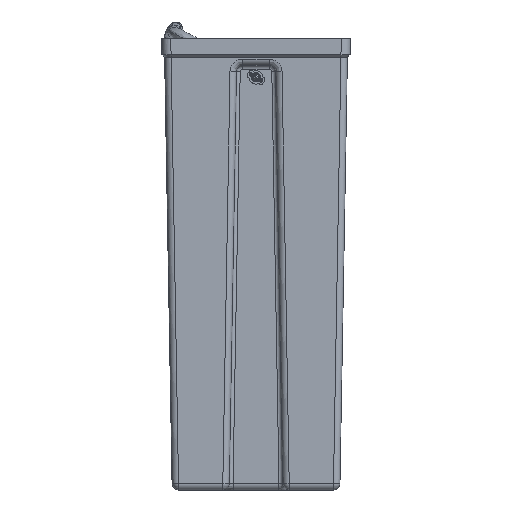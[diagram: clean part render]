
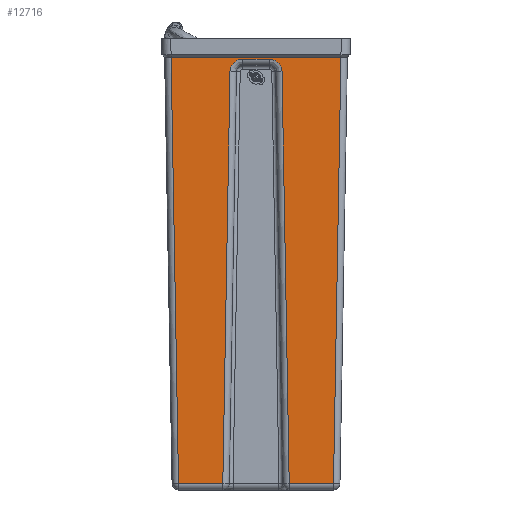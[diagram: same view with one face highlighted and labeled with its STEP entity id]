
A CAD part, left-side view. The second image highlights one B-rep face of the part: STEP entity #12716.
In plain terms, the highlighted planar face has unit normal (-1, 0, -0.018).
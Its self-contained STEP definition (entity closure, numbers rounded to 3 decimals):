
#1388=ELLIPSE('',#13679,12.002,12.);
#1389=ELLIPSE('',#13680,12.002,12.);
#2116=ORIENTED_EDGE('',*,*,#6122,.T.);
#2117=ORIENTED_EDGE('',*,*,#6123,.T.);
#2118=ORIENTED_EDGE('',*,*,#6124,.T.);
#2119=ORIENTED_EDGE('',*,*,#6125,.T.);
#2120=ORIENTED_EDGE('',*,*,#6126,.T.);
#2121=ORIENTED_EDGE('',*,*,#6127,.F.);
#2122=ORIENTED_EDGE('',*,*,#6128,.T.);
#2123=ORIENTED_EDGE('',*,*,#6129,.F.);
#2124=ORIENTED_EDGE('',*,*,#6130,.T.);
#2125=ORIENTED_EDGE('',*,*,#6131,.T.);
#6122=EDGE_CURVE('',#8112,#8038,#9189,.F.);
#6123=EDGE_CURVE('',#8038,#8035,#9190,.T.);
#6124=EDGE_CURVE('',#8035,#8113,#9191,.T.);
#6125=EDGE_CURVE('',#8113,#8114,#9192,.F.);
#6126=EDGE_CURVE('',#8114,#8115,#9193,.T.);
#6127=EDGE_CURVE('',#8116,#8115,#1388,.T.);
#6128=EDGE_CURVE('',#8116,#8117,#9194,.F.);
#6129=EDGE_CURVE('',#8118,#8117,#1389,.T.);
#6130=EDGE_CURVE('',#8118,#8119,#9195,.F.);
#6131=EDGE_CURVE('',#8119,#8112,#9196,.F.);
#8035=VERTEX_POINT('',#19481);
#8038=VERTEX_POINT('',#19542);
#8112=VERTEX_POINT('',#19836);
#8113=VERTEX_POINT('',#19839);
#8114=VERTEX_POINT('',#19841);
#8115=VERTEX_POINT('',#19843);
#8116=VERTEX_POINT('',#19845);
#8117=VERTEX_POINT('',#19847);
#8118=VERTEX_POINT('',#19849);
#8119=VERTEX_POINT('',#19851);
#9189=LINE('',#19835,#9993);
#9190=LINE('',#19837,#9994);
#9191=LINE('',#19838,#9995);
#9192=LINE('',#19840,#9996);
#9193=LINE('',#19842,#9997);
#9194=LINE('',#19846,#9998);
#9195=LINE('',#19850,#9999);
#9196=LINE('',#19852,#10000);
#9993=VECTOR('',#15413,1000.);
#9994=VECTOR('',#15414,1000.);
#9995=VECTOR('',#15415,1000.);
#9996=VECTOR('',#15416,1000.);
#9997=VECTOR('',#15417,1000.);
#9998=VECTOR('',#15420,1000.);
#9999=VECTOR('',#15423,1000.);
#10000=VECTOR('',#15424,1000.);
#10716=EDGE_LOOP('',(#2116,#2117,#2118,#2119,#2120,#2121,#2122,#2123,#2124,
#2125));
#11625=FACE_BOUND('',#10716,.T.);
#12520=PLANE('',#13678);
#12716=ADVANCED_FACE('',(#11625),#12520,.T.);
#13678=AXIS2_PLACEMENT_3D('',#19834,#15411,#15412);
#13679=AXIS2_PLACEMENT_3D('',#19844,#15418,#15419);
#13680=AXIS2_PLACEMENT_3D('',#19848,#15421,#15422);
#15411=DIRECTION('',(-1.,0.,-0.017));
#15412=DIRECTION('',(-0.017,0.,1.));
#15413=DIRECTION('',(0.017,0.017,-1.));
#15414=DIRECTION('',(0.,1.,0.));
#15415=DIRECTION('',(0.017,-0.017,-1.));
#15416=DIRECTION('',(0.,1.,0.));
#15417=DIRECTION('',(-0.017,-0.017,1.));
#15418=DIRECTION('',(-1.,0.,-0.017));
#15419=DIRECTION('',(-0.017,0.,1.));
#15420=DIRECTION('',(0.,1.,0.));
#15421=DIRECTION('',(-1.,0.,-0.017));
#15422=DIRECTION('',(0.017,0.,-1.));
#15423=DIRECTION('',(-0.017,0.017,1.));
#15424=DIRECTION('',(0.,1.,0.));
#19481=CARTESIAN_POINT('',(-189.526,79.027,402.5));
#19542=CARTESIAN_POINT('',(-189.526,-79.027,402.5));
#19834=CARTESIAN_POINT('',(-182.5,0.,0.));
#19835=CARTESIAN_POINT('',(-182.478,-71.979,-1.256));
#19836=CARTESIAN_POINT('',(-182.603,-72.104,5.895));
#19837=CARTESIAN_POINT('',(-189.526,79.07,402.5));
#19838=CARTESIAN_POINT('',(-182.478,71.979,-1.256));
#19839=CARTESIAN_POINT('',(-182.603,72.104,5.895));
#19840=CARTESIAN_POINT('',(-182.603,0.,5.895));
#19841=CARTESIAN_POINT('',(-182.603,30.896,5.895));
#19842=CARTESIAN_POINT('',(-189.397,24.103,395.105));
#19843=CARTESIAN_POINT('',(-189.292,24.207,389.105));
#19844=CARTESIAN_POINT('',(-189.288,12.209,388.895));
#19845=CARTESIAN_POINT('',(-189.498,12.209,400.895));
#19846=CARTESIAN_POINT('',(-189.498,0.,400.895));
#19847=CARTESIAN_POINT('',(-189.498,-12.209,400.895));
#19848=CARTESIAN_POINT('',(-189.288,-12.209,388.895));
#19849=CARTESIAN_POINT('',(-189.292,-24.207,389.105));
#19850=CARTESIAN_POINT('',(-182.502,-30.997,0.105));
#19851=CARTESIAN_POINT('',(-182.603,-30.896,5.895));
#19852=CARTESIAN_POINT('',(-182.603,0.,5.895));
